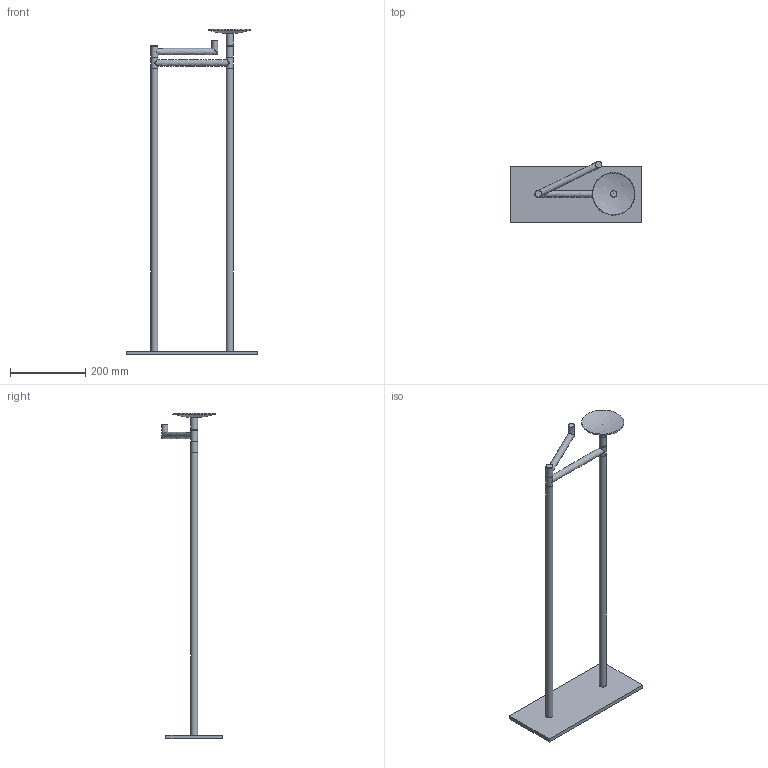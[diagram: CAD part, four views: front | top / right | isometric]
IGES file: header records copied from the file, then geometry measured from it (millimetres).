
Global section: file name: /Users/f/Desktop/B&A/B&A no PDF/xpiantane/AM615.igs; native system: Rhinoceros ( Jan 31 2011 ); preprocessor: Trout Lake IGES 012 Jan 31 2011; date: 110209.151926; units: millimetre
Bounding box: 350 x 161.75 x 864.85 mm (x, y, z)
Surface area: 260422.2 mm2 (no closed solid volume)
Topology: 0 solids, 0 shells, 63 faces, 494 edges, 464 vertices
Faces by surface type: bspline 63
